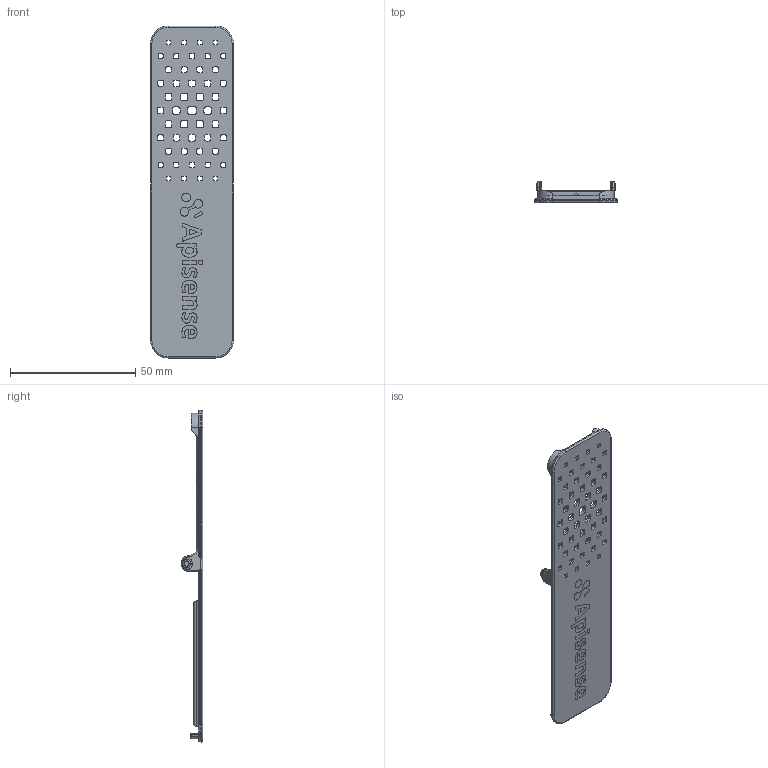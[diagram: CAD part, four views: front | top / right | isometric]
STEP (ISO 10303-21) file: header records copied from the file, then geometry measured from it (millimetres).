
FILE_DESCRIPTION (( 'STEP AP214' ), '1' );
FILE_NAME ('SENSOR14_COVER.STEP', '2026-01-01T09:58:07', ( '' ), ( '' ), 'SwSTEP 2.0', 'SolidWorks 2021', '' );
FILE_SCHEMA (( 'AUTOMOTIVE_DESIGN' ));
Length unit declared in the file: millimetre
Products named in the file (1): SENSOR14_COVER
Bounding box: 33 x 8.5 x 132.5 mm (x, y, z)
Volume: 6648.1 mm3; surface area: 10665 mm2
Topology: 13 solids, 13 shells, 1803 faces, 5133 edges, 3347 vertices
Faces by surface type: bspline 774, cylinder 584, plane 376, torus 53, sphere 16
Entity records: 63611 total; most frequent: CARTESIAN_POINT 21897, ORIENTED_EDGE 10232, DIRECTION 6701, EDGE_CURVE 5116, VERTEX_POINT 3347, LINE 2261, VECTOR 2261, AXIS2_PLACEMENT_3D 2220
